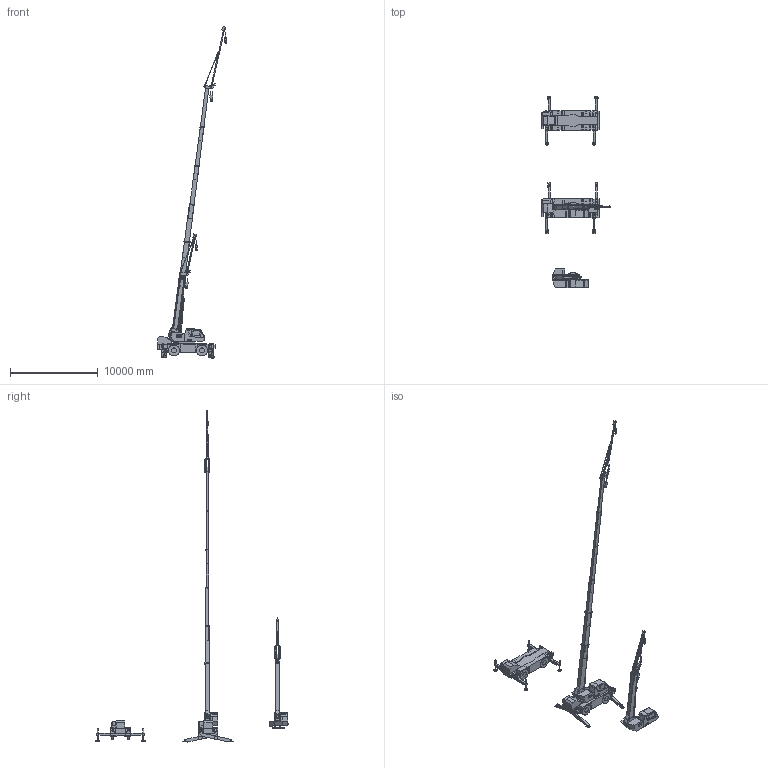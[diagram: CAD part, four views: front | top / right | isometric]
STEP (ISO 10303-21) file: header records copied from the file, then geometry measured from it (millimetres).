
FILE_DESCRIPTION(('CATIA V5 STEP'),'2;1');
FILE_NAME('D:\ENOVIA\Work\GR-160N-5_AP203iso.stp','2022-01-18T03:52:47+00:00',('TDN'),('TADANO'),'CATIA Version 5-6 Release 2018 SP2 HF38','CATIA V5 STEP AP203','none');
FILE_SCHEMA(('CONFIG_CONTROL_DESIGN'));
Products named in the file (9): GR-160N-5; GR-160N-5_Upper_max; GR-160N-5_BoomAssy_max; GR-160N-5_JibAssy_max; GR-160N-5_Upper_min; GR-160N-5_BoomAssy; GR-160N-5_JibAssy; GR-160N-5_Lower_X_max; GR-160N-5_Lower_H_max
Assembly tree (84 placements, depth 4):
  GR-160N-5
    GR-160N-5_Upper_max
      #65
      GR-160N-5_BoomAssy_max
        #4381
        #11327
        #11644
        #11961
        #12278
        #12595
      GR-160N-5_JibAssy_max
        #14292
        #16020
      #16548
      #19171
      #19671
      #20165
      #119460
      #209699
      #210956
    GR-160N-5_Upper_min
      #65
      GR-160N-5_BoomAssy
        #4381
        #11327
        #11644
        #11961
        #12278
        #12595
      GR-160N-5_JibAssy
        #14292
        #16020
      #16548
      #19171
      #19671
      #20165
      #119460
      #209699
      #210956
    GR-160N-5_Lower_X_max
      #212294
      #214301
      #216518
      #217569
      #220741
      #221730
      #222719  x4
      #223054  x4
      #223334  x4
      #223745  x4
    GR-160N-5_Lower_H_max
      #224482
      #214301
      #216518
      #217569
      #220741
      #221730
      #222719  x4
      #226662  x4
      #227155  x4
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Bounding box: 7841.16 x 21900 x 37863.98 mm (x, y, z)
Volume: 44456337660.8 mm3; surface area: 452401026.2 mm2
Topology: 134 solids, 136 shells, 13956 faces, 40500 edges, 27060 vertices
Faces by surface type: plane 13326, cylinder 626, cone 4
Entity records: 227392 total; most frequent: CARTESIAN_POINT 44060, ORIENTED_EDGE 40396, DIRECTION 33573, EDGE_CURVE 20198, VECTOR 19487, LINE 19487, VERTEX_POINT 13496, AXIS2_PLACEMENT_3D 7265
